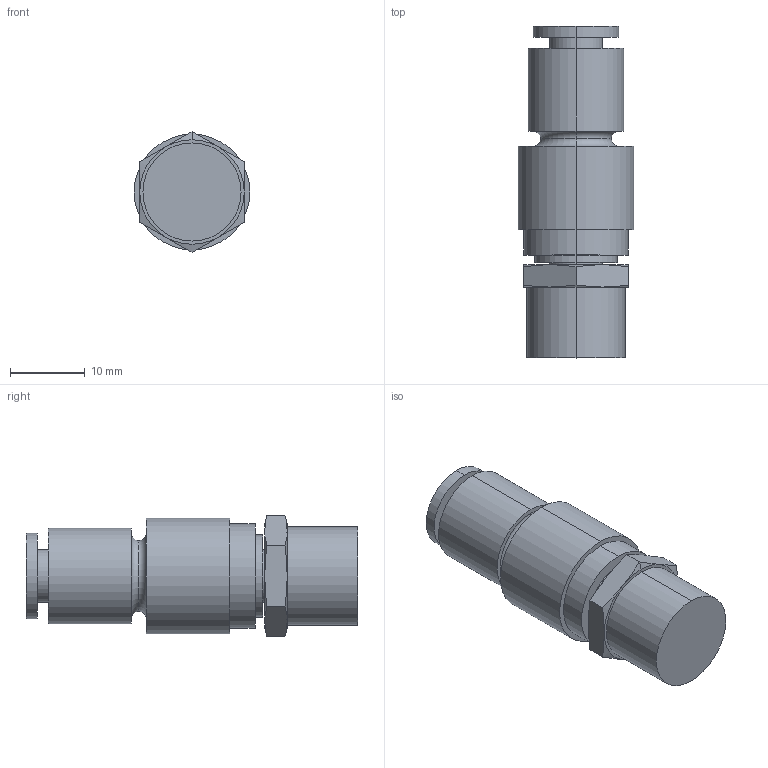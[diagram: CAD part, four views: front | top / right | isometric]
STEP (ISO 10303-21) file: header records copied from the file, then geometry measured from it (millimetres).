
FILE_DESCRIPTION (( 'STEP AP203' ), '1' );
FILE_NAME ('FKXH06-02.STEP', '2022-04-18T15:14:47', ( '' ), ( '' ), 'SwSTEP 2.0', 'SolidWorks 2019', '' );
FILE_SCHEMA (( 'CONFIG_CONTROL_DESIGN' ));
Length unit declared in the file: millimetre
Products named in the file (1): FKXH06-02
Bounding box: 15.5 x 44.5 x 16.17 mm (x, y, z)
Volume: 5858.3 mm3; surface area: 3041 mm2
Topology: 1 solids, 1 shells, 54 faces, 110 edges, 68 vertices
Faces by surface type: cylinder 18, plane 18, cone 14, torus 4
Entity records: 1755 total; most frequent: CARTESIAN_POINT 533, DIRECTION 256, ORIENTED_EDGE 220, AXIS2_PLACEMENT_3D 115, EDGE_CURVE 110, VERTEX_POINT 68, EDGE_LOOP 64, CIRCLE 60
